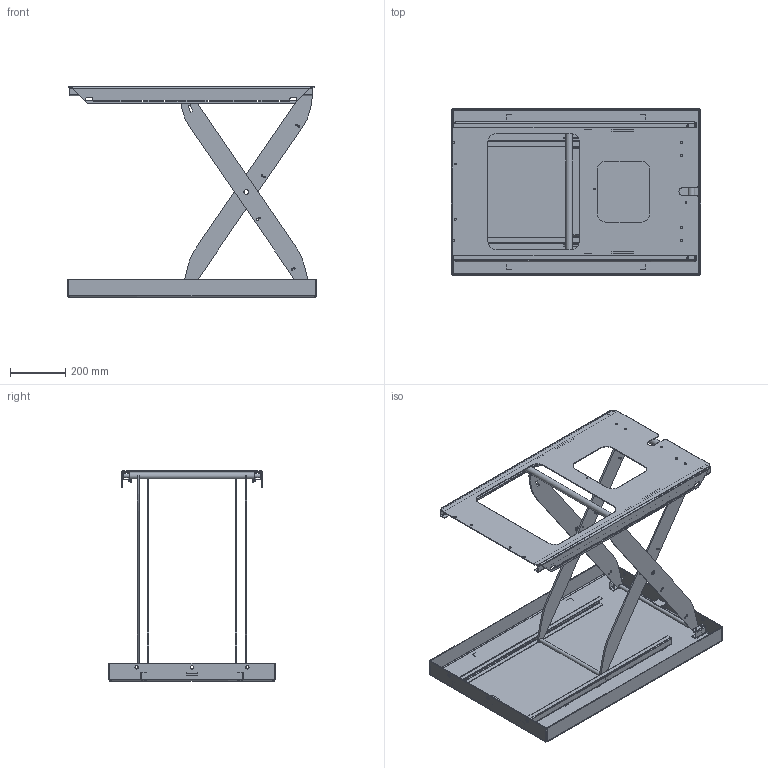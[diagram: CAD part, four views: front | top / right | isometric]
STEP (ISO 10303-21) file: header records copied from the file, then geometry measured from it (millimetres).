
FILE_DESCRIPTION(/* description */ ('CR 500 without power pack'),/* implementation_level */ '2;1');
FILE_NAME(/* name */ 'C:\Autodesk_VaultWork\Ritningar\36473_Raised.stp',/* time_stamp */ '2019-05-15T08:23:08+02:00',/* author */ ('johso'),/* organization */ (''),/* preprocessor_version */ 'ST-DEVELOPER v16.5',/* originating_system */ 'Autodesk Inventor 2017',/* authorisation */ '');
FILE_SCHEMA (('AUTOMOTIVE_DESIGN { 1 0 10303 214 3 1 1 }'));
Length unit declared in the file: millimetre
Products named in the file (19): 36461.tmp; 32951; 34917; 32953; 44071; 35126; 600549; 35125-1; 85788 - 362; 600553; 35125-2; 43807; 85788 - 434; 32957; 32957-1; 44471; 44470; 42394; 33508
Assembly tree (27 placements, depth 4):
  36461.tmp
    32951
      34917
      32953  x2
      44071  x2
    35126
      600549
        35125-1  x2
        85788 - 362
        43807
      600553
        35125-2  x2
        43807
        85788 - 434
    32957
      32957-1
      44471  x2
      44470  x2
      42394  x2
    33508  x2
Bounding box: 900 x 600 x 760 mm (x, y, z)
Volume: 5562238.8 mm3; surface area: 3247784.4 mm2
Topology: 22 solids, 22 shells, 718 faces, 1881 edges, 1239 vertices
Faces by surface type: plane 423, cylinder 283, bspline 12
Full cylindrical faces by diameter (mm): 6 x42, 6.5 x2, 8.5 x6, 10.5 x4, 12.5 x6, 14 x6, 14.5 x4, 16.2 x2, 20.2 x2, 24 x2
Entity records: 17820 total; most frequent: CARTESIAN_POINT 3669, DIRECTION 2836, ORIENTED_EDGE 2724, EDGE_CURVE 1362, LINE 986, VECTOR 986, VERTEX_POINT 926, AXIS2_PLACEMENT_3D 925
